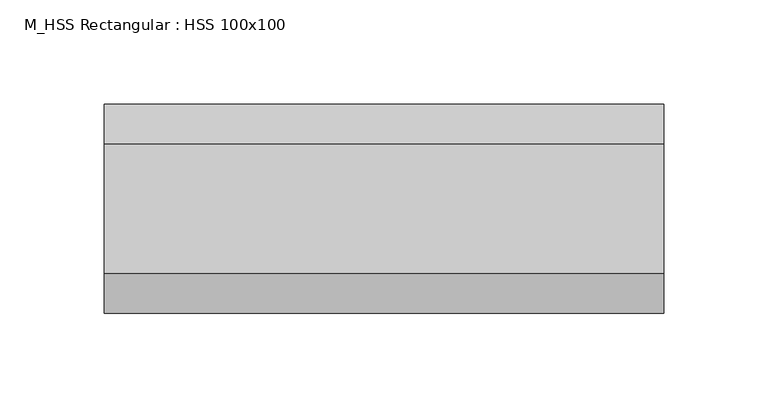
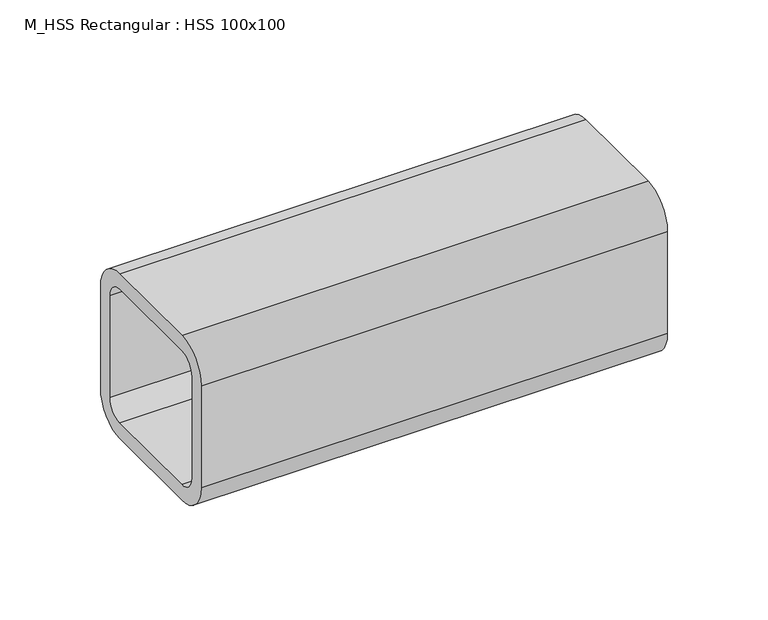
"""IFC4 building model written with IfcOpenShell, lengths in millimetres: beam geometry, M_HSS Rectangular : HSS 100x100."""

from ifc_helpers import new_model, si_unit, point, frame, frame_2d, origin, place, context, project, spatial, polyline, circle_curve, trimmed, segment, composite_curve, outline, extrude, source, transform, mapped, element, save


def m_hss_rectangular_hss_100x100_2c18bcb8(model_context):
    return source(origin(), model_context, "Body", "SweptSolid", [
        extrude(outline(composite_curve([segment(trimmed(circle_curve(frame_2d((-30.94, 30.94)), 19.06), [point((-50.0, 30.94))], [point((-30.94, 50.0))], False, "CARTESIAN"), True, "CONTINUOUS"), segment(polyline([(-30.94, 50.0), (30.94, 50.0)]), True, "CONTINUOUS"), segment(trimmed(circle_curve(frame_2d((30.94, 30.94)), 19.06), [point((30.94, 50.0))], [point((50.0, 30.94))], False, "CARTESIAN"), True, "CONTINUOUS"), segment(polyline([(50.0, 30.94), (50.0, -30.94)]), True, "CONTINUOUS"), segment(trimmed(circle_curve(frame_2d((30.94, -30.94)), 19.06), [point((50.0, -30.94))], [point((30.94, -50.0))], False, "CARTESIAN"), True, "CONTINUOUS"), segment(polyline([(30.94, -50.0), (-30.94, -50.0)]), True, "CONTINUOUS"), segment(trimmed(circle_curve(frame_2d((-30.94, -30.94)), 19.06), [point((-30.94, -50.0))], [point((-50.0, -30.94))], False, "CARTESIAN"), True, "CONTINUOUS"), segment(polyline([(-50.0, -30.94), (-50.0, 30.94)]), True, "CONTINUOUS")], self_intersect=False), holes=[composite_curve([segment(polyline([(30.94, 40.47), (-30.94, 40.47)]), True, "CONTINUOUS"), segment(trimmed(circle_curve(frame_2d((-30.94, 30.94)), 9.53), [point((-30.94, 40.47))], [point((-40.47, 30.94))], True, "CARTESIAN"), True, "CONTINUOUS"), segment(polyline([(-40.47, 30.94), (-40.47, -30.94)]), True, "CONTINUOUS"), segment(trimmed(circle_curve(frame_2d((-30.94, -30.94)), 9.53), [point((-40.47, -30.94))], [point((-30.94, -40.47))], True, "CARTESIAN"), True, "CONTINUOUS"), segment(polyline([(-30.94, -40.47), (30.94, -40.47)]), True, "CONTINUOUS"), segment(trimmed(circle_curve(frame_2d((30.94, -30.94)), 9.53), [point((30.94, -40.47))], [point((40.47, -30.94))], True, "CARTESIAN"), True, "CONTINUOUS"), segment(polyline([(40.47, -30.94), (40.47, 30.94)]), True, "CONTINUOUS"), segment(trimmed(circle_curve(frame_2d((30.94, 30.94)), 9.53), [point((40.47, 30.94))], [point((30.94, 40.47))], True, "CARTESIAN"), True, "CONTINUOUS")], self_intersect=False)]), frame((-127.6, 0.0, 0.0), z_axis=(1.0, 0.0, 0.0), x_axis=(0.0, 1.0, 0.0)), (0.0, 0.0, 1.0), 267.6),
    ])


if __name__ == "__main__":
    model = new_model("IFC4")
    model_context = context("Model", 3, world=origin())
    ifc_project = project(units=[si_unit("LENGTHUNIT", "METRE", prefix="MILLI")], contexts=[model_context])
    site = spatial("IfcSite", under=ifc_project)
    building = spatial("IfcBuilding", under=site)
    placement = place(None, origin())
    m_hss_rectangular_hss_100x100_shape = m_hss_rectangular_hss_100x100_2c18bcb8(model_context)
    element("IfcBeam", 1, ObjectType="M_HSS Rectangular : HSS 100x100", at=placement, inside=building, context=model_context, shape_type="MappedRepresentation", body=[
        mapped(m_hss_rectangular_hss_100x100_shape, transform((0.0, 0.0, 0.0), x_axis=(1.0, 0.0, 0.0), y_axis=(0.0, 1.0, 0.0), z_axis=(0.0, 0.0, 1.0))),
    ])
    save(model, "model.ifc")
